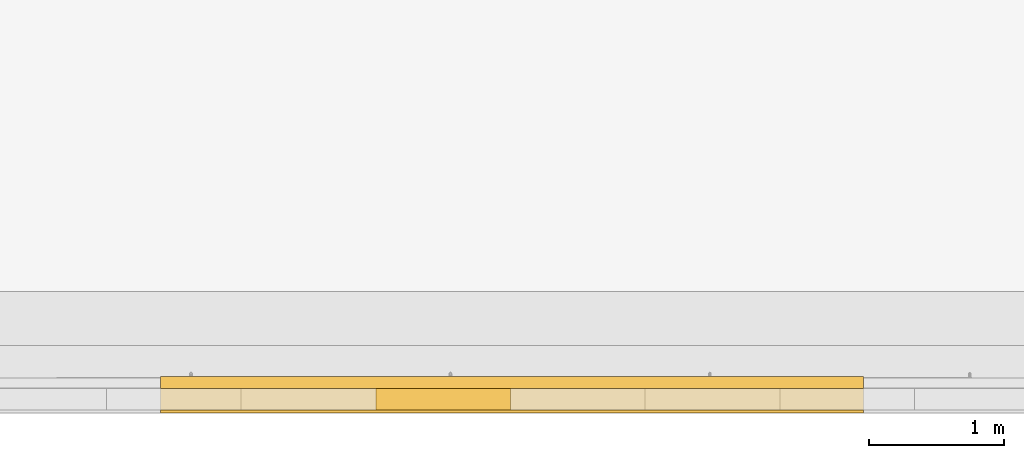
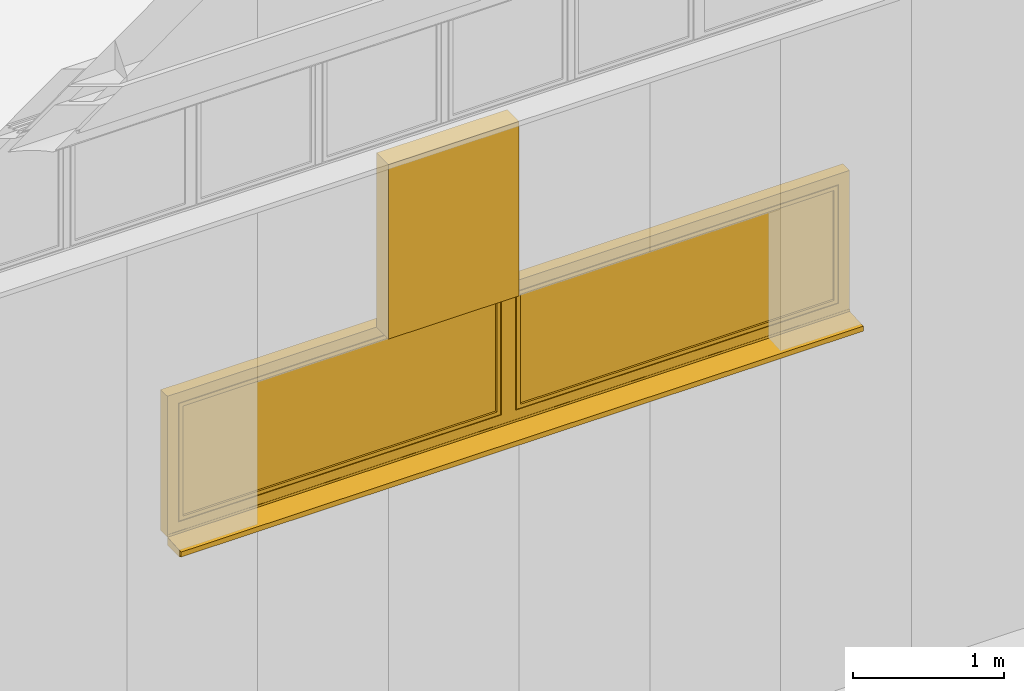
# One storey, part 215 of 302: 2 curtain walls, 1 window, 1 opening, 1 element without a shape of its own.
"""IFC2X3 building model written with IfcOpenShell, lengths in metres."""

from ifc_helpers import new_model, entity, si_unit, converted_unit, derived_unit, direction, frame, frame_2d, origin, place, context, subcontext, project, spatial, rectangle, extrude, faceted_brep, source, transform, mapped, material, material_list, layer, layer_set, layer_usage, type_object, type_shapes, element, fill, aggregate, save


model = new_model("IFC2X3")

# Units and contexts
model_context = context("Model", 3, precision=1e-05, world=origin(), true_north=direction((6.12303176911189e-17, 1.0)))
body_context = subcontext(model_context, "Body", "Model", "MODEL_VIEW")
ifc_project = project(units=[si_unit("LENGTHUNIT", "METRE"), si_unit("AREAUNIT", "SQUARE_METRE"), si_unit("VOLUMEUNIT", "CUBIC_METRE"), converted_unit("PLANEANGLEUNIT", "DEGREE", entity("IfcRatioMeasure", 0.0174532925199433), si_unit("PLANEANGLEUNIT", "RADIAN"), dimensions=[0, 0, 0, 0, 0, 0, 0]), si_unit("MASSUNIT", "GRAM", prefix="KILO"), derived_unit("MASSDENSITYUNIT", [(si_unit("MASSUNIT", "GRAM", prefix="KILO"), 1), (si_unit("LENGTHUNIT", "METRE"), -3)]), derived_unit("MOMENTOFINERTIAUNIT", [(si_unit("LENGTHUNIT", "METRE"), 4)]), si_unit("TIMEUNIT", "SECOND"), si_unit("FREQUENCYUNIT", "HERTZ"), si_unit("THERMODYNAMICTEMPERATUREUNIT", "DEGREE_CELSIUS"), derived_unit("THERMALTRANSMITTANCEUNIT", [(si_unit("MASSUNIT", "GRAM", prefix="KILO"), 1), (si_unit("THERMODYNAMICTEMPERATUREUNIT", "KELVIN"), -1), (si_unit("TIMEUNIT", "SECOND"), -3)]), derived_unit("VOLUMETRICFLOWRATEUNIT", [(si_unit("LENGTHUNIT", "METRE"), 3), (si_unit("TIMEUNIT", "SECOND"), -1)]), si_unit("ELECTRICCURRENTUNIT", "AMPERE"), si_unit("ELECTRICVOLTAGEUNIT", "VOLT"), si_unit("POWERUNIT", "WATT"), si_unit("FORCEUNIT", "NEWTON", prefix="KILO"), si_unit("ILLUMINANCEUNIT", "LUX"), si_unit("LUMINOUSFLUXUNIT", "LUMEN"), si_unit("LUMINOUSINTENSITYUNIT", "CANDELA"), derived_unit("USERDEFINED", [(si_unit("MASSUNIT", "GRAM", prefix="KILO"), -1), (si_unit("LENGTHUNIT", "METRE"), -2), (si_unit("TIMEUNIT", "SECOND"), 3), (si_unit("LUMINOUSFLUXUNIT", "LUMEN"), 1)]), derived_unit("LINEARVELOCITYUNIT", [(si_unit("LENGTHUNIT", "METRE"), 1), (si_unit("TIMEUNIT", "SECOND"), -1)]), si_unit("PRESSUREUNIT", "PASCAL"), derived_unit("USERDEFINED", [(si_unit("LENGTHUNIT", "METRE"), -2), (si_unit("MASSUNIT", "GRAM", prefix="KILO"), 1), (si_unit("TIMEUNIT", "SECOND"), -2)]), derived_unit("LINEARFORCEUNIT", [(si_unit("MASSUNIT", "GRAM", prefix="KILO"), 1), (si_unit("LENGTHUNIT", "METRE"), 1), (si_unit("TIMEUNIT", "SECOND"), -2), (si_unit("LENGTHUNIT", "METRE"), -1)]), derived_unit("PLANARFORCEUNIT", [(si_unit("MASSUNIT", "GRAM", prefix="KILO"), 1), (si_unit("LENGTHUNIT", "METRE"), 1), (si_unit("TIMEUNIT", "SECOND"), -2), (si_unit("LENGTHUNIT", "METRE"), -2)])], contexts=[model_context])

# Site, building, storey
site_placement = place(None, origin())
site = spatial("IfcSite", under=ifc_project, at=site_placement, Name="Default", CompositionType="ELEMENT")
building_placement = place(site_placement, origin())
building = spatial("IfcBuilding", under=site, at=building_placement, CompositionType="ELEMENT")
storey_placement = place(building_placement, frame((0.0, 0.0, -1.3)))
storey = spatial("IfcBuildingStorey", under=building, at=storey_placement, Name="00_EG", CompositionType="ELEMENT", Elevation=-1.3)

# Curtain walls, opening, window
curtain_wall_type_1 = type_object("IfcCurtainWallType", Name="Fassade:Sandwichpaneele 16cm", PredefinedType="NOTDEFINED")
curtain_wall_1_placement = place(storey_placement, frame((0.0, 0.0, 1.3)))
curtain_wall_1 = element("IfcCurtainWall", 1, at=curtain_wall_1_placement, inside=storey, type_object=curtain_wall_type_1, Name="Fassade:Sandwichpaneele 16cm", ObjectType="Fassade:Sandwichpaneele 16cm")
ifc_material_1 = material(Name="Prepainted_Steel-ArcelorMittal_Construction_HAIRULTRA-35-CORAL-4309-[RAL_3000]")
ifc_layer_1 = layer(ifc_material_1, 0.015)
ifc_material_2 = material(Name="ArcelorMittal-MineralWool")
ifc_layer_2 = layer(ifc_material_2, 0.13)
ifc_material_3 = material(Name="Prepainted_Steel-ArcelorMittal_Construction_INTÉRIEUR-12-WHITE-912")
ifc_layer_3 = layer(ifc_material_3, 0.015)
ifc_layer_set = layer_set([ifc_layer_1, ifc_layer_2, ifc_layer_3], Name="Fassade:Sandwichpaneele 16cm")
ifc_layer_usage_1 = layer_usage(ifc_layer_set, "AXIS2", "POSITIVE", -0.08)
curtain_wall_type_2 = type_object("IfcCurtainWallType", Name="Basiswand:Sandwichpaneele d = 16cm aussen", PredefinedType="NOTDEFINED", material=ifc_layer_set)
curtain_wall_2_placement = place(storey_placement, frame((-254.438861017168, 14.898088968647, 4.10599999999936)))
curtain_wall_2 = element("IfcCurtainWall", 2, at=curtain_wall_2_placement, type_object=curtain_wall_type_2, material=ifc_layer_usage_1, Name="Basiswand:Sandwichpaneele d = 16cm aussen", ObjectType="Basiswand:Sandwichpaneele d = 16cm aussen", context=body_context, shape_type="SweptSolid", body=[
    extrude(rectangle(XDim=5.21999999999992, YDim=0.159999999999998, at=frame_2d((2.60999999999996, 0.0), x_axis=(-1.0, 0.0))), origin(), (0.0, 0.0, 1.0), 0.0640000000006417),
])
opening_placement = place(curtain_wall_2_placement, frame((0.0, -0.0800000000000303, 0.0540000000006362)))
opening = element("IfcOpeningElement", 3, at=opening_placement, cuts=curtain_wall_2, Name="Basiswand:Sandwichpaneele d = 16cm aussen", ObjectType="Opening", context=body_context, shape_type="Brep", body=[
    faceted_brep([(0.0, 0.160000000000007, 1.14999999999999), (5.22000000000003, 0.159999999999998, 1.14999999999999), (5.22000000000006, 0.16, 0.0100000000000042), (0.0, 0.160000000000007, 0.0100000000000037), (0.0, 0.0, 1.14999999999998), (0.0, 0.0, 0.0), (5.21999999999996, 0.0, 0.0), (5.21999999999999, 0.0, 1.14999999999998)], [[[0, 1, 2, 3]], [[4, 5, 6, 7]], [[5, 4, 0, 3]], [[6, 5, 3, 2]], [[7, 6, 2, 1]], [[4, 7, 1, 0]]]),
])
ifc_material_4 = material(Name="Glass")
ifc_material_5 = material(Name="Aluminium")
ifc_material_6 = material(Name="Holz - generisch 140-100-70")
ifc_material_list_1 = material_list([ifc_material_1, ifc_material_4, ifc_material_5, ifc_material_6])
ifc_material_7 = material(Name="<Unnamed>")
ifc_material_list_2 = material_list([ifc_material_1, ifc_material_4, ifc_material_7, ifc_material_5])
window_style = type_object("IfcWindowStyle", Name="FE 2 tlg - konfigurierbar:Fenster 2 tgl 5220 x 1240", ConstructionType="NOTDEFINED", OperationType="NOTDEFINED", ParameterTakesPrecedence=False, Sizeable=False, material=ifc_material_list_2)
shared_shape = source(origin(), body_context, "Body", "Brep", [
    faceted_brep([(5.1, -0.089999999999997, 1.02999999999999), (5.1, 0.0, 1.02999999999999), (5.1, 0.0, 0.139999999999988), (5.1, -0.0899999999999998, 0.139999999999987), (5.13, 0.0, 0.109999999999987), (2.67, 0.0, 0.109999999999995), (2.67, 0.0, 1.05999999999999), (5.13, 0.0, 1.05999999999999), (2.7, 0.0, 1.02999999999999), (2.7, 0.0, 0.139999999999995), (2.7, -0.0899999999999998, 0.139999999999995), (2.7, -0.089999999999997, 1.02999999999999), (5.17, -0.0899999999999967, 1.09999999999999), (2.63, -0.0899999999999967, 1.09999999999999), (2.63, -0.0899999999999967, 0.0699999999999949), (5.17, -0.0899999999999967, 0.0699999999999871), (5.17, -0.074999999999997, 1.09999999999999), (5.17, -0.0750000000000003, 0.0699999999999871), (2.63, -0.0750000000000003, 0.0699999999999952), (2.63, -0.074999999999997, 1.09999999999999), (5.155, -0.0749999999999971, 1.08499999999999), (2.645, -0.0749999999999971, 1.08499999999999), (2.645, -0.0749999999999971, 0.0849999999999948), (5.155, -0.0749999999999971, 0.0849999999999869), (5.155, -0.0449999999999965, 1.08499999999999), (5.155, -0.0449999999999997, 0.0849999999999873), (2.645, -0.0449999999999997, 0.084999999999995), (2.645, -0.0449999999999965, 1.08499999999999), (5.145, -0.0449999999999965, 1.07499999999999), (2.655, -0.0449999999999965, 1.07499999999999), (2.655, -0.0449999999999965, 0.0949999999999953), (5.145, -0.0449999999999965, 0.0949999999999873), (5.145, -0.0149999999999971, 1.07499999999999), (5.145, -0.0150000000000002, 0.0949999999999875), (2.655, -0.0150000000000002, 0.0949999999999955), (2.655, -0.0149999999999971, 1.07499999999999), (5.13, -0.0149999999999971, 1.05999999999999), (2.67, -0.0149999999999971, 1.05999999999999), (2.67, -0.0149999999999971, 0.109999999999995), (5.13, -0.0149999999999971, 0.109999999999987)], [[[0, 1, 2, 3]], [[4, 5, 6, 7], [1, 8, 9, 2]], [[3, 2, 9, 10]], [[3, 10, 11, 0], [12, 13, 14, 15]], [[16, 12, 15, 17]], [[17, 15, 14, 18]], [[17, 18, 19, 16], [20, 21, 22, 23]], [[24, 20, 23, 25]], [[25, 23, 22, 26]], [[25, 26, 27, 24], [28, 29, 30, 31]], [[32, 28, 31, 33]], [[33, 31, 30, 34]], [[33, 34, 35, 32], [36, 37, 38, 39]], [[7, 36, 39, 4]], [[4, 39, 38, 5]], [[10, 9, 8, 11]], [[18, 14, 13, 19]], [[26, 22, 21, 27]], [[34, 30, 29, 35]], [[5, 38, 37, 6]], [[11, 8, 1, 0]], [[19, 13, 12, 16]], [[27, 21, 20, 24]], [[35, 29, 28, 32]], [[6, 37, 36, 7]]], outer=[[True], [True, False], [True], [False, True], [True], [True], [True, False], [True], [True], [True, False], [True], [True], [True, False], [True], [True], [True], [True], [True], [True], [True], [True], [True], [True], [True], [True]]),
    faceted_brep([(5.10000000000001, -0.0149999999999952, 0.140000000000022), (5.10000000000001, -0.0589999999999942, 0.140000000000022), (2.69999999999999, -0.0589999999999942, 0.14000000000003), (2.69999999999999, -0.0149999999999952, 0.14000000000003), (5.10000000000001, -0.0149999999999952, 1.03), (5.10000000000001, -0.0589999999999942, 1.03), (2.69999999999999, -0.0589999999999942, 1.03), (2.69999999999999, -0.0149999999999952, 1.03)], [[[0, 1, 2, 3]], [[4, 5, 1, 0]], [[5, 6, 2, 1]], [[6, 7, 3, 2]], [[7, 4, 0, 3]], [[4, 7, 6, 5]]]),
    faceted_brep([(0.0, 0.182000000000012, 0.000625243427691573), (0.0, 0.160000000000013, 0.0020002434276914), (0.0, 0.00200000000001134, 0.011875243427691), (5.22, 0.00200000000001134, 0.011875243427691), (5.22, 0.160000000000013, 0.0020002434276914), (5.22, 0.182000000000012, 0.000625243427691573), (0.0, 0.182000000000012, -0.0393747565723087), (5.22, 0.182000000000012, -0.0393747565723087), (0.0, 0.170000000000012, -0.0393747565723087), (5.22, 0.170000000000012, -0.0393747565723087), (0.0, 0.170000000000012, -0.0373747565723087), (5.22, 0.170000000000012, -0.0373747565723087), (0.0, 0.180000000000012, -0.0373747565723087), (5.22, 0.180000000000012, -0.0373747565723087), (0.0, 0.180000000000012, -0.0012499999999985), (5.22, 0.180000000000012, -0.0012499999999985), (0.0, 0.160000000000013, 0.0), (5.22, 0.160000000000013, 0.0), (5.22, 0.0, 0.0100000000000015), (0.0, 0.0, 0.0100000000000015), (0.0, 0.0, 0.0300000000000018), (5.22, 0.0, 0.0300000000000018), (0.0, 0.00200000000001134, 0.0300000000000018), (5.22, 0.00200000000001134, 0.0300000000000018)], [[[0, 1, 2, 3, 4, 5]], [[6, 0, 5, 7]], [[8, 6, 7, 9]], [[10, 8, 9, 11]], [[12, 10, 11, 13]], [[14, 12, 13, 15]], [[16, 14, 15, 17, 18, 19]], [[20, 19, 18, 21]], [[22, 20, 21, 23]], [[2, 22, 23, 3]], [[16, 1, 0, 6, 8, 10, 12, 14]], [[17, 4, 3, 23, 21, 18]], [[1, 16, 19, 20, 22, 2]], [[4, 17, 15, 13, 11, 9, 7, 5]]]),
    faceted_brep([(2.52000000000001, -0.0899999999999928, 1.03), (2.52000000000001, 0.0, 1.03), (2.52000000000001, 0.0, 0.139999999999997), (2.52000000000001, -0.0899999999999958, 0.139999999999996), (2.55000000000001, 0.0, 0.109999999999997), (0.0900000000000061, 0.0, 0.110000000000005), (0.0900000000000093, 0.0, 1.06), (2.55000000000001, 0.0, 1.06), (0.120000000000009, 0.0, 1.03), (0.120000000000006, 0.0, 0.140000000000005), (0.120000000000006, -0.0899999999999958, 0.140000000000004), (0.120000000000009, -0.0899999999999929, 1.03), (2.59000000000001, -0.0899999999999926, 1.1), (0.0500000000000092, -0.0899999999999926, 1.1), (0.050000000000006, -0.0899999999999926, 0.0700000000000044), (2.59000000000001, -0.0899999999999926, 0.0699999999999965), (2.59000000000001, -0.0749999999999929, 1.1), (2.59000000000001, -0.0749999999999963, 0.0699999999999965), (0.050000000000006, -0.0749999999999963, 0.0700000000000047), (0.0500000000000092, -0.0749999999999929, 1.1), (2.57500000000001, -0.074999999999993, 1.085), (0.0650000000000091, -0.074999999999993, 1.085), (0.0650000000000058, -0.074999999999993, 0.0850000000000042), (2.57500000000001, -0.074999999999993, 0.0849999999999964), (2.57500000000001, -0.0449999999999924, 1.085), (2.57500000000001, -0.0449999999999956, 0.0849999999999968), (0.0650000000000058, -0.0449999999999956, 0.0850000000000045), (0.0650000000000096, -0.0449999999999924, 1.085), (2.56500000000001, -0.0449999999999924, 1.075), (0.0750000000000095, -0.0449999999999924, 1.075), (0.0750000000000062, -0.0449999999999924, 0.0950000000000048), (2.56500000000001, -0.0449999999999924, 0.0949999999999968), (2.56500000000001, -0.014999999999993, 1.075), (2.56500000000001, -0.0149999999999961, 0.0949999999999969), (0.0750000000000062, -0.0149999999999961, 0.0950000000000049), (0.0750000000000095, -0.014999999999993, 1.075), (2.55000000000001, -0.014999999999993, 1.06), (0.0900000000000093, -0.014999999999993, 1.06), (0.0900000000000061, -0.014999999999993, 0.110000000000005), (2.55000000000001, -0.014999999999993, 0.109999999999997)], [[[0, 1, 2, 3]], [[4, 5, 6, 7], [1, 8, 9, 2]], [[3, 2, 9, 10]], [[3, 10, 11, 0], [12, 13, 14, 15]], [[16, 12, 15, 17]], [[17, 15, 14, 18]], [[17, 18, 19, 16], [20, 21, 22, 23]], [[24, 20, 23, 25]], [[25, 23, 22, 26]], [[25, 26, 27, 24], [28, 29, 30, 31]], [[32, 28, 31, 33]], [[33, 31, 30, 34]], [[33, 34, 35, 32], [36, 37, 38, 39]], [[7, 36, 39, 4]], [[4, 39, 38, 5]], [[10, 9, 8, 11]], [[18, 14, 13, 19]], [[26, 22, 21, 27]], [[34, 30, 29, 35]], [[5, 38, 37, 6]], [[11, 8, 1, 0]], [[19, 13, 12, 16]], [[27, 21, 20, 24]], [[35, 29, 28, 32]], [[6, 37, 36, 7]]], outer=[[True], [True, False], [True], [False, True], [True], [True], [True, False], [True], [True], [True, False], [True], [True], [True, False], [True], [True], [True], [True], [True], [True], [True], [True], [True], [True], [True], [True]]),
    faceted_brep([(2.52000000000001, -0.0149999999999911, 0.140000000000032), (2.52000000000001, -0.0589999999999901, 0.140000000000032), (0.119999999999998, -0.0589999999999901, 0.14000000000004), (0.119999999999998, -0.0149999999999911, 0.14000000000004), (2.52000000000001, -0.0149999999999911, 1.03000000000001), (2.52000000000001, -0.0589999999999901, 1.03000000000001), (0.120000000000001, -0.0589999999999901, 1.03000000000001), (0.120000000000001, -0.0149999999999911, 1.03000000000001)], [[[0, 1, 2, 3]], [[4, 5, 1, 0]], [[5, 6, 2, 1]], [[6, 7, 3, 2]], [[7, 4, 0, 3]], [[4, 7, 6, 5]]]),
    faceted_brep([(5.22, 0.0, 0.010000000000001), (5.22, -0.0899999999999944, 0.010000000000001), (0.0, -0.0899999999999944, 0.010000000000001), (0.0, 0.0, 0.010000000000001), (5.22, 0.0, 1.14999999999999), (5.22, -0.0899999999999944, 1.14999999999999), (5.17499999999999, -0.0899999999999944, 1.10499999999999), (5.17499999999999, -0.0899999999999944, 0.0650000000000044), (2.625, -0.0899999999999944, 0.0650000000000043), (2.625, -0.0899999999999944, 1.10499999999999), (2.59500000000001, -0.0899999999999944, 1.10499999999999), (2.59500000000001, -0.0899999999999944, 0.0650000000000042), (0.0450000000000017, -0.0899999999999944, 0.0650000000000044), (0.0450000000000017, -0.0899999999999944, 1.10499999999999), (0.0, -0.0899999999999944, 1.14999999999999), (0.0, 0.0, 1.14999999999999), (2.55500000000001, 0.0, 0.105000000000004), (2.55500000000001, 0.0, 1.06499999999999), (0.0850000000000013, 0.0, 1.06499999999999), (0.0850000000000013, 0.0, 0.105000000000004), (5.13499999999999, 0.0, 0.105000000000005), (5.13499999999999, 0.0, 1.06499999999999), (2.665, 0.0, 1.06499999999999), (2.665, 0.0, 0.105000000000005), (5.13499999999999, -0.0150000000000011, 0.105000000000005), (5.13499999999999, -0.0150000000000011, 1.06499999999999), (2.665, -0.0149999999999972, 0.105000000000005), (2.665, -0.0149999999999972, 1.06499999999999), (2.55500000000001, -0.014999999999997, 0.105000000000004), (2.55500000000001, -0.014999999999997, 1.06499999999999), (0.0850000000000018, -0.0149999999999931, 0.105000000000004), (0.0850000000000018, -0.0149999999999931, 1.06499999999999), (5.17499999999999, -0.0750000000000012, 1.10499999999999), (5.17499999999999, -0.0750000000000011, 0.0650000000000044), (2.625, -0.0749999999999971, 0.0650000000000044), (2.625, -0.0749999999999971, 1.10499999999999), (2.59500000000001, -0.0749999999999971, 1.10499999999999), (2.59500000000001, -0.0749999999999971, 0.0650000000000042), (0.0450000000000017, -0.074999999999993, 0.0650000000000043), (0.0450000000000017, -0.074999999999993, 1.10499999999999), (5.15999999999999, -0.0750000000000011, 1.08999999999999), (5.15999999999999, -0.0750000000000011, 0.0800000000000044), (2.64, -0.0749999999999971, 0.0800000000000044), (2.64, -0.0749999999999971, 1.08999999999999), (5.15999999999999, -0.0450000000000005, 0.0800000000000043), (5.15999999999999, -0.0450000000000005, 1.08999999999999), (2.64, -0.0449999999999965, 1.08999999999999), (2.64, -0.0449999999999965, 0.0800000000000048), (5.14999999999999, -0.0450000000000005, 1.07999999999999), (5.14999999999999, -0.0450000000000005, 0.0900000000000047), (2.65, -0.0449999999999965, 0.0900000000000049), (2.65, -0.0449999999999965, 1.07999999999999), (5.14999999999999, -0.0150000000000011, 0.0900000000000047), (5.14999999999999, -0.0150000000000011, 1.07999999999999), (2.65, -0.0149999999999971, 1.07999999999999), (2.65, -0.0149999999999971, 0.0900000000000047), (2.58000000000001, -0.0749999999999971, 1.08999999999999), (2.58000000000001, -0.074999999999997, 0.0800000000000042), (0.0600000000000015, -0.074999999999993, 0.0800000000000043), (0.0600000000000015, -0.0749999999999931, 1.08999999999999), (2.58000000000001, -0.0449999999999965, 0.0800000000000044), (2.58000000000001, -0.0449999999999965, 1.08999999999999), (0.0600000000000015, -0.0449999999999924, 1.08999999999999), (0.0600000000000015, -0.0449999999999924, 0.0800000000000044), (2.57000000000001, -0.0449999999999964, 1.07999999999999), (2.57000000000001, -0.0449999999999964, 0.0900000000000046), (0.070000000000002, -0.0449999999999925, 0.0900000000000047), (0.070000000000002, -0.0449999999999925, 1.07999999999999), (2.57000000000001, -0.014999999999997, 0.0900000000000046), (2.57, -0.014999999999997, 1.07999999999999), (0.070000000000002, -0.014999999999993, 1.07999999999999), (0.0700000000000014, -0.014999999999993, 0.0900000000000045)], [[[0, 1, 2, 3]], [[4, 5, 1, 0]], [[6, 7, 8, 9], [10, 11, 12, 13], [5, 14, 2, 1]], [[14, 15, 3, 2]], [[16, 17, 18, 19], [20, 21, 22, 23], [15, 4, 0, 3]], [[20, 24, 25, 21]], [[26, 23, 22, 27]], [[24, 20, 23, 26]], [[16, 28, 29, 17]], [[30, 19, 18, 31]], [[28, 16, 19, 30]], [[32, 33, 7, 6]], [[7, 33, 34, 8]], [[8, 34, 35, 9]], [[36, 37, 11, 10]], [[11, 37, 38, 12]], [[12, 38, 39, 13]], [[33, 32, 35, 34], [40, 41, 42, 43]], [[44, 45, 46, 47], [48, 49, 50, 51]], [[45, 44, 41, 40]], [[41, 44, 47, 42]], [[25, 24, 26, 27], [52, 53, 54, 55]], [[53, 52, 49, 48]], [[49, 52, 55, 50]], [[42, 47, 46, 43]], [[50, 55, 54, 51]], [[37, 36, 39, 38], [56, 57, 58, 59]], [[60, 61, 62, 63], [64, 65, 66, 67]], [[61, 60, 57, 56]], [[57, 60, 63, 58]], [[29, 28, 30, 31], [68, 69, 70, 71]], [[69, 68, 65, 64]], [[65, 68, 71, 66]], [[58, 63, 62, 59]], [[66, 71, 70, 67]], [[4, 15, 14, 5]], [[32, 6, 9, 35]], [[45, 40, 43, 46]], [[53, 48, 51, 54]], [[21, 25, 27, 22]], [[36, 10, 13, 39]], [[61, 56, 59, 62]], [[69, 64, 67, 70]], [[17, 29, 31, 18]]], outer=[[True], [True], [False, False, True], [True], [False, False, True], [True], [True], [True], [True], [True], [True], [True], [True], [True], [True], [True], [True], [True, False], [True, False], [True], [True], [False, True], [True], [True], [True], [True], [True, False], [True, False], [True], [True], [False, True], [True], [True], [True], [True], [True], [True], [True], [True], [True], [True], [True], [True], [True]]),
    faceted_brep([(0.0, -0.0899999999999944, 0.0350000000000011), (5.22, -0.0899999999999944, 0.035000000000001), (5.22, 0.0, 0.035000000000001), (0.0, 0.0, 0.0350000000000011), (0.0, -0.0899999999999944, 0.0100000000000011), (0.0, 0.0, 0.0100000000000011), (5.22, 0.0, 0.010000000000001), (5.22, -0.0899999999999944, 0.010000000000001)], [[[0, 1, 2, 3]], [[4, 5, 6, 7]], [[0, 3, 5, 4]], [[3, 2, 6, 5]], [[2, 1, 7, 6]], [[1, 0, 4, 7]]]),
])
type_shapes(window_style, [shared_shape])
window_placement = place(opening_placement, frame((5.21999999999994, 0.160000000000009, 0.0), z_axis=(0.0, 0.0, 1.0), x_axis=(-1.0, 0.0, 0.0)))
window = element("IfcWindow", 4, at=window_placement, inside=storey, type_object=window_style, material=ifc_material_list_1, Name="FE 2 tlg - konfigurierbar:Fenster 2 tgl 5220 x 1240", ObjectType="FE 2 tlg - konfigurierbar:Fenster 2 tgl 5220 x 1240", OverallHeight=1.99, OverallWidth=5.22000000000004, context=body_context, shape_type="MappedRepresentation", body=[
    mapped(shared_shape, transform((0.0, 0.0, 0.0), scale=1.0)),
])
fill(opening, window)
ifc_layer_usage_2 = layer_usage(ifc_layer_set, "AXIS2", "POSITIVE", -0.08)
curtain_wall_3_placement = place(storey_placement, frame((-252.840111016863, 14.898088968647, 5.31000000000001)))
curtain_wall_3 = element("IfcCurtainWall", 5, at=curtain_wall_3_placement, type_object=curtain_wall_type_2, material=ifc_layer_usage_2, Name="Basiswand:Sandwichpaneele d = 16cm aussen", ObjectType="Basiswand:Sandwichpaneele d = 16cm aussen", context=body_context, shape_type="SweptSolid", body=[
    extrude(rectangle(XDim=0.999999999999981, YDim=0.159999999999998, at=frame_2d((0.49999999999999, 0.0), x_axis=(-1.0, 0.0))), origin(), (0.0, 0.0, 1.0), 1.40999999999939),
])
aggregate(curtain_wall_1, [curtain_wall_2, curtain_wall_3])

save(model, "model.ifc")
